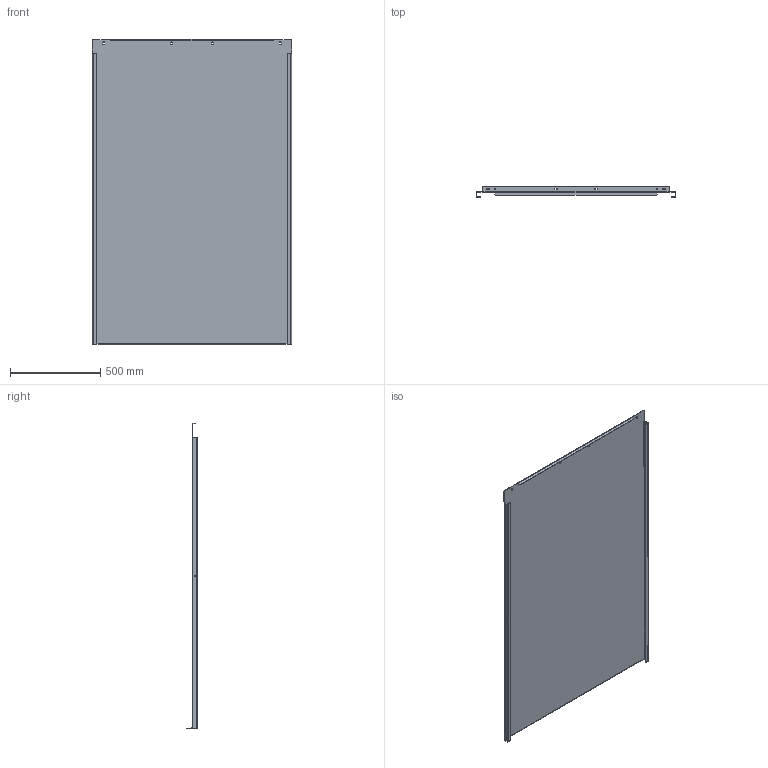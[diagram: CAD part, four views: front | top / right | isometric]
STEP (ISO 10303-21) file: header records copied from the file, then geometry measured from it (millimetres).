
FILE_DESCRIPTION((''),'2;1');
FILE_NAME('MODEL-101_ASM','2014-07-28T',('joelb'),('SAGINAW CONTROL & ENGINEERING'),'PRO/ENGINEER BY PARAMETRIC TECHNOLOGY CORPORATION, 2012070','PRO/ENGINEER BY PARAMETRIC TECHNOLOGY CORPORATION, 2012070','');
FILE_SCHEMA(('AUTOMOTIVE_DESIGN { 1 0 10303 214 1 1 1 1 }'));
Length unit declared in the file: inch
Products named in the file (3): MODEL-101-SUBPANEL; 108625; MODEL-101_ASM
Assembly tree (2 placements, depth 2):
  MODEL-101_ASM
    MODEL-101-SUBPANEL
    108625
Bounding box: 1100 x 63.5 x 1687.5 mm (x, y, z)
Volume: 5416301 mm3; surface area: 4117309.5 mm2
Topology: 1 solids, 1 shells, 124 faces, 318 edges, 196 vertices
Faces by surface type: plane 66, cylinder 46, bspline 12
Entity records: 5126 total; most frequent: CARTESIAN_POINT 963, DIRECTION 644, ORIENTED_EDGE 636, PRESENTATION_STYLE_ASSIGNMENT 319, STYLED_ITEM 319, CURVE_STYLE 318, EDGE_CURVE 318, AXIS2_PLACEMENT_3D 217
